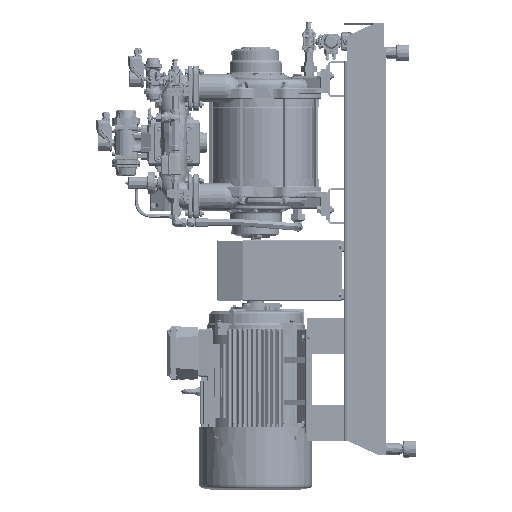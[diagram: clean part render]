
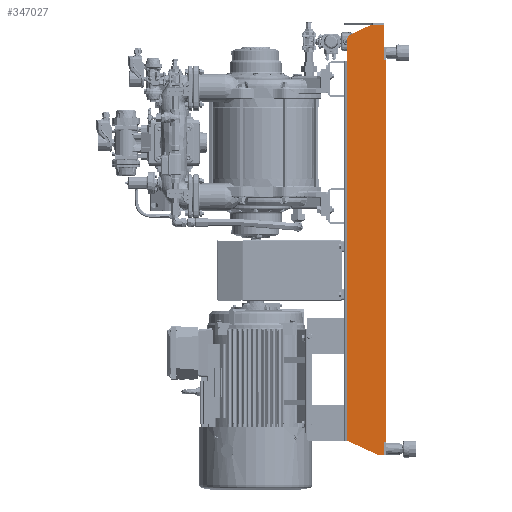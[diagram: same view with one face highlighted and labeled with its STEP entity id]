
A CAD part, left-side view. The second image highlights one B-rep face of the part: STEP entity #347027.
In plain terms, the highlighted planar face has unit normal (-1, 0, 0).
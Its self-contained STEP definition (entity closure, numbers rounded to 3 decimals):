
#10869=PLANE('',#372394);
#40806=FACE_OUTER_BOUND('',#62146,.T.);
#62146=EDGE_LOOP('',(#265980,#265981,#265982,#265983,#265984,#265985,#265986,
#265987,#265988,#265989,#265990,#265991));
#88713=LINE('',#577047,#115250);
#89386=LINE('',#579187,#115923);
#89387=LINE('',#579189,#115924);
#89388=LINE('',#579190,#115925);
#89389=LINE('',#579192,#115926);
#89390=LINE('',#579195,#115927);
#89391=LINE('',#579196,#115928);
#89392=LINE('',#579198,#115929);
#89393=LINE('',#579200,#115930);
#89394=LINE('',#579202,#115931);
#89395=LINE('',#579203,#115932);
#115250=VECTOR('',#427486,10.);
#115923=VECTOR('',#429313,10.);
#115924=VECTOR('',#429314,10.);
#115925=VECTOR('',#429315,10.);
#115926=VECTOR('',#429316,10.);
#115927=VECTOR('',#429319,10.);
#115928=VECTOR('',#429320,10.);
#115929=VECTOR('',#429321,10.);
#115930=VECTOR('',#429322,10.);
#115931=VECTOR('',#429323,10.);
#115932=VECTOR('',#429324,10.);
#131919=CIRCLE('',#372395,25.);
#154805=VERTEX_POINT('',#577044);
#154806=VERTEX_POINT('',#577046);
#155420=VERTEX_POINT('',#579164);
#155421=VERTEX_POINT('',#579171);
#155425=VERTEX_POINT('',#579185);
#155426=VERTEX_POINT('',#579186);
#155427=VERTEX_POINT('',#579188);
#155428=VERTEX_POINT('',#579191);
#155429=VERTEX_POINT('',#579193);
#155430=VERTEX_POINT('',#579197);
#155431=VERTEX_POINT('',#579199);
#155432=VERTEX_POINT('',#579201);
#193781=EDGE_CURVE('',#154805,#154806,#88713,.T.);
#194778=EDGE_CURVE('',#155425,#155426,#89386,.T.);
#194779=EDGE_CURVE('',#155425,#155427,#89387,.T.);
#194780=EDGE_CURVE('',#154806,#155427,#89388,.T.);
#194781=EDGE_CURVE('',#155428,#154805,#89389,.T.);
#194782=EDGE_CURVE('',#155429,#155428,#131919,.T.);
#194783=EDGE_CURVE('',#155420,#155429,#89390,.T.);
#194784=EDGE_CURVE('',#155420,#155421,#89391,.T.);
#194785=EDGE_CURVE('',#155430,#155421,#89392,.T.);
#194786=EDGE_CURVE('',#155431,#155430,#89393,.T.);
#194787=EDGE_CURVE('',#155431,#155432,#89394,.T.);
#194788=EDGE_CURVE('',#155432,#155426,#89395,.T.);
#265980=ORIENTED_EDGE('',*,*,#194778,.F.);
#265981=ORIENTED_EDGE('',*,*,#194779,.T.);
#265982=ORIENTED_EDGE('',*,*,#194780,.F.);
#265983=ORIENTED_EDGE('',*,*,#193781,.F.);
#265984=ORIENTED_EDGE('',*,*,#194781,.F.);
#265985=ORIENTED_EDGE('',*,*,#194782,.F.);
#265986=ORIENTED_EDGE('',*,*,#194783,.F.);
#265987=ORIENTED_EDGE('',*,*,#194784,.T.);
#265988=ORIENTED_EDGE('',*,*,#194785,.F.);
#265989=ORIENTED_EDGE('',*,*,#194786,.F.);
#265990=ORIENTED_EDGE('',*,*,#194787,.T.);
#265991=ORIENTED_EDGE('',*,*,#194788,.T.);
#347027=ADVANCED_FACE('',(#40806),#10869,.T.);
#372394=AXIS2_PLACEMENT_3D('',#579184,#429311,#429312);
#372395=AXIS2_PLACEMENT_3D('',#579194,#429317,#429318);
#427486=DIRECTION('',(0.,-1.,0.));
#429311=DIRECTION('center_axis',(-1.,0.,0.));
#429312=DIRECTION('ref_axis',(0.,0.,
-1.));
#429313=DIRECTION('',(0.,0.,-1.));
#429314=DIRECTION('',(0.,1.,0.));
#429315=DIRECTION('',(0.,0.,-1.));
#429316=DIRECTION('',(0.,-0.906,0.423));
#429317=DIRECTION('center_axis',(1.,0.,0.));
#429318=DIRECTION('ref_axis',(0.,0.843,0.537));
#429319=DIRECTION('',(0.,0.,1.));
#429320=DIRECTION('',(0.,0.,-1.));
#429321=DIRECTION('',(0.,0.906,0.423));
#429322=DIRECTION('',(0.,1.,0.));
#429323=DIRECTION('',(0.,0.,1.));
#429324=DIRECTION('',(0.,-1.,0.));
#577044=CARTESIAN_POINT('',(-254.,51.196,783.75));
#577046=CARTESIAN_POINT('',(-254.,6.,783.75));
#577047=CARTESIAN_POINT('',(-254.,51.196,783.75));
#579164=CARTESIAN_POINT('',(-254.,138.,653.75));
#579171=CARTESIAN_POINT('',(-254.,138.,-683.25));
#579184=CARTESIAN_POINT('Origin',(-254.,403.586,-140.));
#579185=CARTESIAN_POINT('',(-254.,0.,659.75));
#579186=CARTESIAN_POINT('',(-254.,0.,-689.25));
#579187=CARTESIAN_POINT('',(-254.,0.,-933.75));
#579188=CARTESIAN_POINT('',(-254.,6.,659.75));
#579189=CARTESIAN_POINT('',(-254.,201.793,659.75));
#579190=CARTESIAN_POINT('',(-254.,6.,783.75));
#579191=CARTESIAN_POINT('',(-254.,123.565,750.004));
#579192=CARTESIAN_POINT('',(-254.,138.,743.273));
#579193=CARTESIAN_POINT('',(-254.,138.,727.346));
#579194=CARTESIAN_POINT('Origin',(-254.,113.,727.346));
#579195=CARTESIAN_POINT('',(-254.,138.,653.75));
#579196=CARTESIAN_POINT('',(-254.,138.,-140.));
#579197=CARTESIAN_POINT('',(-254.,30.775,-733.25));
#579198=CARTESIAN_POINT('',(-254.,30.775,-733.25));
#579199=CARTESIAN_POINT('',(-254.,6.,-733.25));
#579200=CARTESIAN_POINT('',(-254.,0.,-733.25));
#579201=CARTESIAN_POINT('',(-254.,6.,-689.25));
#579202=CARTESIAN_POINT('',(-254.,6.,-440.375));
#579203=CARTESIAN_POINT('',(-254.,201.793,-689.25));
